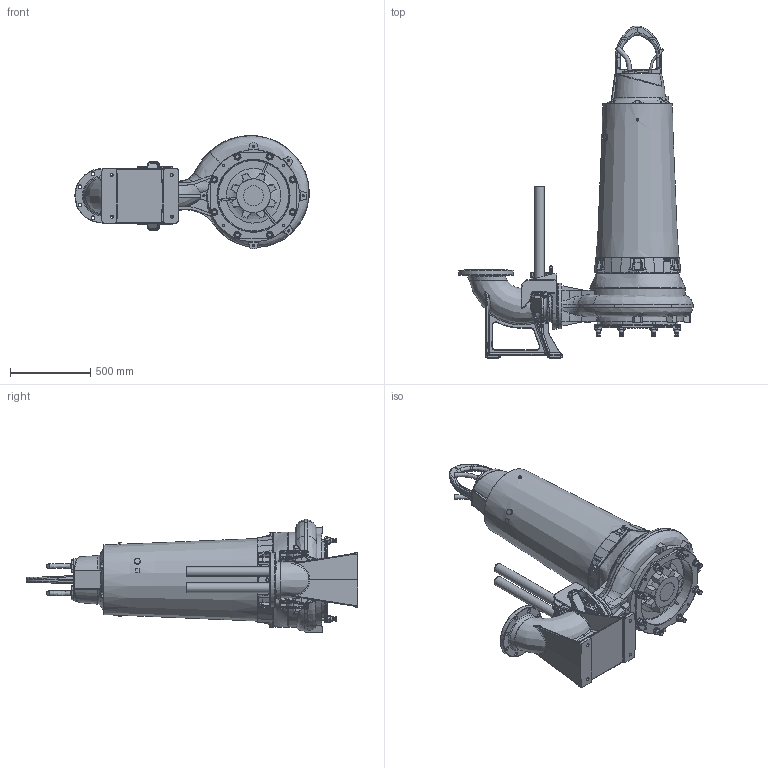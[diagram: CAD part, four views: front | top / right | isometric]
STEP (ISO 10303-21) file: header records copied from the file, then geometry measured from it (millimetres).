
FILE_DESCRIPTION (( 'STEP AP203' ), '1' );
FILE_NAME ('PE5_XFP151M-CB2_WET 2guide_NG2_DN 150-200_B.STEP', '2022-04-05T08:43:43', ( '' ), ( '' ), 'SwSTEP 2.0', 'SolidWorks 2017', '' );
FILE_SCHEMA (( 'CONFIG_CONTROL_DESIGN' ));
Products named in the file (2): PE5_XFP151M-CB2_WET 2guide_NG2_DN 150-200_B
Bounding box: 1464.18 x 2074.04 x 707.39 mm (x, y, z)
Volume: 340534268 mm3; surface area: 6328422.5 mm2
Topology: 20 solids, 37 shells, 3662 faces, 8992 edges, 5339 vertices
Faces by surface type: plane 1073, bspline 956, cylinder 866, cone 391, torus 252, sphere 124
Full cylindrical faces by diameter (mm): 8.5 x2, 10 x5, 10.2 x2, 11 x9, 11.5 x1, 14 x18, 16 x8, 17 x8, 17.5 x2, 19 x6, 20 x5, 22 x10, 23 x8, 27 x16, 27.5 x2, 35 x8, 36 x9, 40 x8, 53 x2, 56 x2, 60.3 x2, 125 x1, 212 x2, 340 x1, 483.6 x1, 484 x1, 492 x1, 500 x1, 589 x1, 595 x2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
Entity records: 227704 total; most frequent: CARTESIAN_POINT 152532, ORIENTED_EDGE 16804, DIRECTION 13687, EDGE_CURVE 8402, AXIS2_PLACEMENT_3D 5547, VERTEX_POINT 5160, EDGE_LOOP 4126, FACE_OUTER_BOUND 3852
